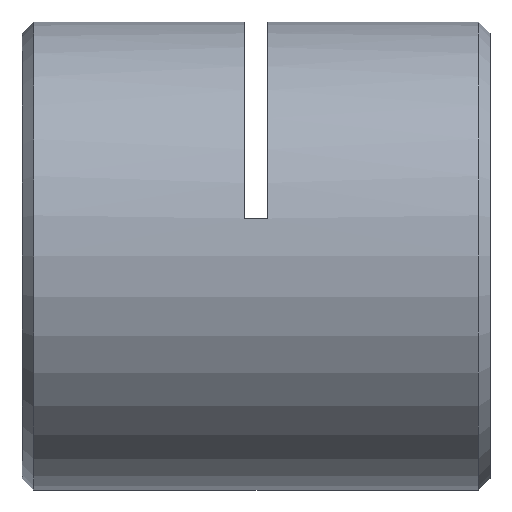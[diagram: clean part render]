
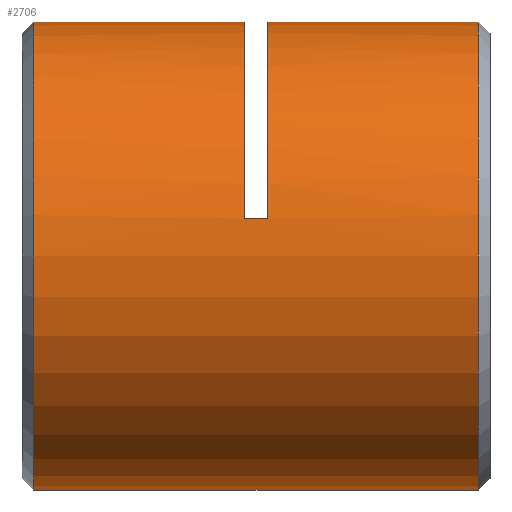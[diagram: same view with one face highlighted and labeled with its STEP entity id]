
A CAD part, left-side view. The second image highlights one B-rep face of the part: STEP entity #2706.
In plain terms, the highlighted cylindrical face has radius 8 mm (diameter 16 mm), a partial arc.
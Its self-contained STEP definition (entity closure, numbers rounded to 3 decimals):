
#94 = EDGE_CURVE ( 'NONE', #2700, #2409, #2215, .T. ) ;
#146 = DIRECTION ( 'NONE',  ( 0., 1., 0. ) ) ;
#157 = DIRECTION ( 'NONE',  ( 0., 1., 0. ) ) ;
#224 = CARTESIAN_POINT ( 'NONE',  ( -7.897, 8.65, 1.28 ) ) ;
#267 = CARTESIAN_POINT ( 'NONE',  ( -7.897, 8.25, 1.28 ) ) ;
#303 = EDGE_CURVE ( 'NONE', #2274, #1923, #2645, .T. ) ;
#351 = DIRECTION ( 'NONE',  ( 0., 1., 0. ) ) ;
#358 = ORIENTED_EDGE ( 'NONE', *, *, #3324, .T. ) ;
#378 = CARTESIAN_POINT ( 'NONE',  ( 0., 0.65, 0. ) ) ;
#415 = CARTESIAN_POINT ( 'NONE',  ( 0., 8.65, 0. ) ) ;
#425 = VERTEX_POINT ( 'NONE', #1266 ) ;
#428 = LINE ( 'NONE', #267, #669 ) ;
#529 = CIRCLE ( 'NONE', #2953, 8. ) ;
#592 = CIRCLE ( 'NONE', #1209, 8. ) ;
#669 = VECTOR ( 'NONE', #1529, 1000. ) ;
#671 = AXIS2_PLACEMENT_3D ( 'NONE', #415, #2556, #720 ) ;
#720 = DIRECTION ( 'NONE',  ( 0., 0., 1. ) ) ;
#1061 = DIRECTION ( 'NONE',  ( 0., 0., -1. ) ) ;
#1088 = DIRECTION ( 'NONE',  ( 0., 0., 1. ) ) ;
#1113 = VERTEX_POINT ( 'NONE', #1944 ) ;
#1147 = ORIENTED_EDGE ( 'NONE', *, *, #94, .F. ) ;
#1209 = AXIS2_PLACEMENT_3D ( 'NONE', #3633, #3926, #3658 ) ;
#1266 = CARTESIAN_POINT ( 'NONE',  ( 0., 7.85, 8. ) ) ;
#1294 = ORIENTED_EDGE ( 'NONE', *, *, #3884, .T. ) ;
#1386 = VECTOR ( 'NONE', #146, 1000. ) ;
#1468 = CIRCLE ( 'NONE', #671, 8. ) ;
#1527 = EDGE_CURVE ( 'NONE', #1995, #425, #3806, .T. ) ;
#1529 = DIRECTION ( 'NONE',  ( 0., 1., 0. ) ) ;
#1539 = CARTESIAN_POINT ( 'NONE',  ( 0., 0.25, 8. ) ) ;
#1582 = ORIENTED_EDGE ( 'NONE', *, *, #1991, .F. ) ;
#1664 = CARTESIAN_POINT ( 'NONE',  ( 0., 0.25, -8. ) ) ;
#1688 = DIRECTION ( 'NONE',  ( 0., -1., 0. ) ) ;
#1774 = ORIENTED_EDGE ( 'NONE', *, *, #3820, .T. ) ;
#1779 = CARTESIAN_POINT ( 'NONE',  ( 0., 0.65, 8. ) ) ;
#1795 = EDGE_LOOP ( 'NONE', ( #1147, #358, #3706, #1582, #1774, #1294, #2085, #2790 ) ) ;
#1825 = VECTOR ( 'NONE', #3113, 1000. ) ;
#1923 = VERTEX_POINT ( 'NONE', #3717 ) ;
#1944 = CARTESIAN_POINT ( 'NONE',  ( -7.897, 7.85, 1.28 ) ) ;
#1991 = EDGE_CURVE ( 'NONE', #1113, #425, #592, .T. ) ;
#1995 = VERTEX_POINT ( 'NONE', #1779 ) ;
#2009 = CARTESIAN_POINT ( 'NONE',  ( 0., 15.85, 0. ) ) ;
#2085 = ORIENTED_EDGE ( 'NONE', *, *, #303, .T. ) ;
#2101 = AXIS2_PLACEMENT_3D ( 'NONE', #2009, #1688, #1061 ) ;
#2193 = VECTOR ( 'NONE', #157, 1000. ) ;
#2215 = LINE ( 'NONE', #1664, #1386 ) ;
#2274 = VERTEX_POINT ( 'NONE', #3212 ) ;
#2302 = AXIS2_PLACEMENT_3D ( 'NONE', #3500, #2624, #1088 ) ;
#2403 = CIRCLE ( 'NONE', #2101, 8. ) ;
#2409 = VERTEX_POINT ( 'NONE', #3916 ) ;
#2556 = DIRECTION ( 'NONE',  ( 0., 1., 0. ) ) ;
#2624 = DIRECTION ( 'NONE',  ( 0., 1., 0. ) ) ;
#2645 = LINE ( 'NONE', #1539, #1825 ) ;
#2676 = EDGE_CURVE ( 'NONE', #1923, #2409, #2403, .T. ) ;
#2684 = FACE_OUTER_BOUND ( 'NONE', #1795, .T. ) ;
#2700 = VERTEX_POINT ( 'NONE', #2918 ) ;
#2706 = ADVANCED_FACE ( 'NONE', ( #2684 ), #2774, .T. ) ;
#2774 = CYLINDRICAL_SURFACE ( 'NONE', #2302, 8. ) ;
#2790 = ORIENTED_EDGE ( 'NONE', *, *, #2676, .T. ) ;
#2918 = CARTESIAN_POINT ( 'NONE',  ( 0., 0.65, -8. ) ) ;
#2953 = AXIS2_PLACEMENT_3D ( 'NONE', #378, #351, #3372 ) ;
#3113 = DIRECTION ( 'NONE',  ( 0., 1., 0. ) ) ;
#3212 = CARTESIAN_POINT ( 'NONE',  ( 0., 8.65, 8. ) ) ;
#3324 = EDGE_CURVE ( 'NONE', #2700, #1995, #529, .T. ) ;
#3372 = DIRECTION ( 'NONE',  ( 0., 0., 1. ) ) ;
#3500 = CARTESIAN_POINT ( 'NONE',  ( 0., 0.25, 0. ) ) ;
#3537 = CARTESIAN_POINT ( 'NONE',  ( 0., 0.25, 8. ) ) ;
#3633 = CARTESIAN_POINT ( 'NONE',  ( 0., 7.85, 0. ) ) ;
#3658 = DIRECTION ( 'NONE',  ( 0., 0., 1. ) ) ;
#3706 = ORIENTED_EDGE ( 'NONE', *, *, #1527, .T. ) ;
#3717 = CARTESIAN_POINT ( 'NONE',  ( 0., 15.85, 8. ) ) ;
#3806 = LINE ( 'NONE', #3537, #2193 ) ;
#3820 = EDGE_CURVE ( 'NONE', #1113, #3922, #428, .T. ) ;
#3884 = EDGE_CURVE ( 'NONE', #3922, #2274, #1468, .T. ) ;
#3916 = CARTESIAN_POINT ( 'NONE',  ( 0., 15.85, -8. ) ) ;
#3922 = VERTEX_POINT ( 'NONE', #224 ) ;
#3926 = DIRECTION ( 'NONE',  ( 0., 1., 0. ) ) ;
